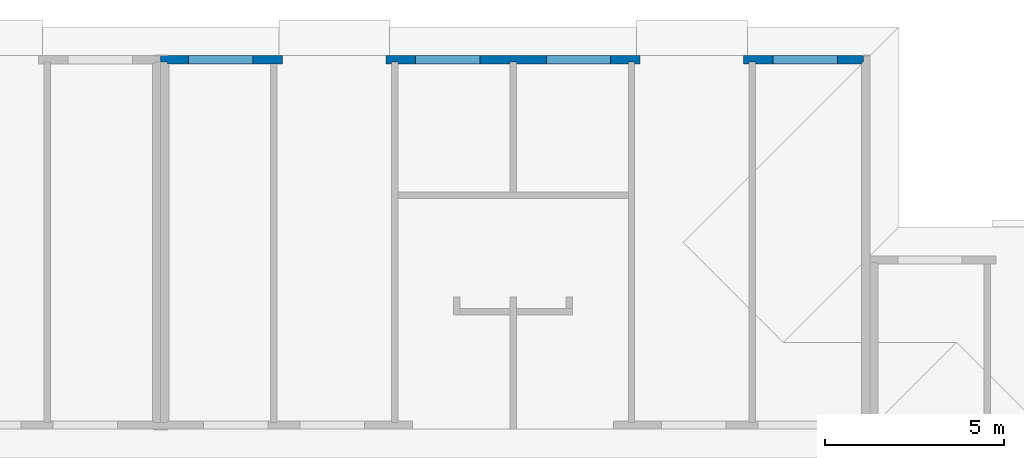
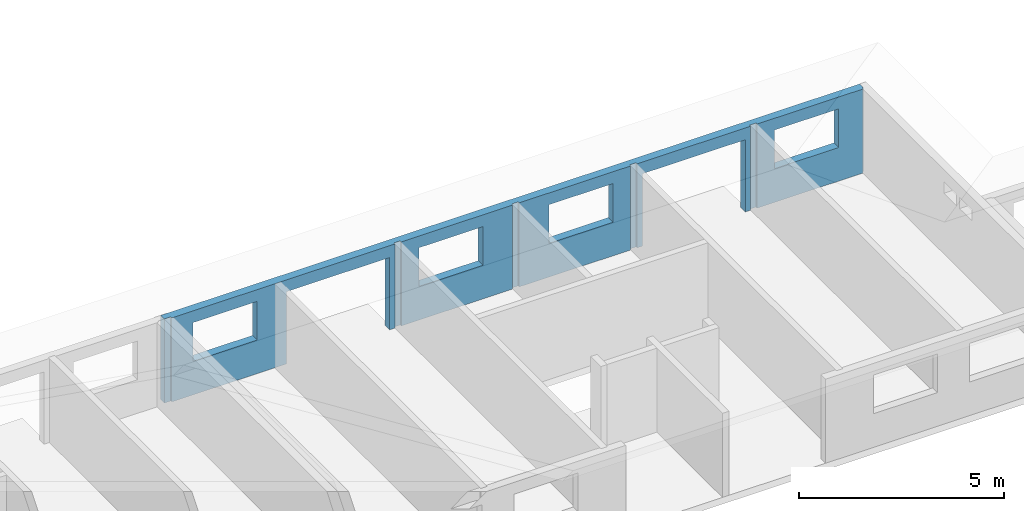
# One storey, part 5 of 9: 1 wall, 6 openings.
"""IFC2X3 building model written with IfcOpenShell, lengths in millimetres."""

import ifcopenshell
import ifcopenshell.guid

model = None  # the IFC model being written
_history = None  # IfcOwnerHistory: only IFC2X3 demands one
_inside = {}  # id of a spatial element -> (the spatial element, [elements in it])
_under = {}  # id of a project, library or spatial element -> (it, [spatial elements below it])
_declared = {}  # id of a project -> (the project, [libraries it declares])
_typed = {}  # id of a type object -> (the type object, [elements of that type])
_made_of = {}  # id of a material, layer set ... -> (it, [elements and type objects made of it])


def new_model(schema):
    """Start an empty IFC model of exactly this schema.

    Asked for "IFC4X3", IfcOpenShell would pick the latest addendum, in which some entities
    have other attributes; the version numbers below select the first issue.
    IFC2X3 requires an IfcOwnerHistory on every rooted entity: one is made here for all.
    """
    global model, _history
    if schema == "IFC4X3":
        model = ifcopenshell.file(schema_version=(4, 3, 0, 0))
    else:
        model = ifcopenshell.file(schema=schema)
    _inside.clear()
    _under.clear()
    _declared.clear()
    _typed.clear()
    _made_of.clear()
    _history = None
    if model.schema == "IFC2X3":
        org = make("IfcOrganization", Name="unknown")
        user = make(
            "IfcPersonAndOrganization",
            ThePerson=make("IfcPerson", FamilyName="unknown"),
            TheOrganization=org,
        )
        app = make(
            "IfcApplication",
            ApplicationDeveloper=org,
            Version="unknown",
            ApplicationFullName="unknown",
            ApplicationIdentifier="unknown",
        )
        _history = make(
            "IfcOwnerHistory",
            OwningUser=user,
            OwningApplication=app,
            ChangeAction="ADDED",
            CreationDate=0,
        )
    return model


def make(cls, **values):
    """One entity of the class cls with the attributes given. An attribute that is None is left unset."""
    return model.create_entity(
        cls, **{name: value for name, value in values.items() if value is not None}
    )


def entity(cls, *values):
    """Any entity or typed value of the class cls, its attributes in the order of the schema. None: left unset."""
    e = model.create_entity(cls)
    for i, value in enumerate(values):
        if value is not None:
            e[i] = value
    return e


def rooted(cls, **values):
    """An entity with a GlobalId (a new one), such as an element, a storey or a relation."""
    return make(cls, GlobalId=ifcopenshell.guid.new(), OwnerHistory=_history, **values)


def si_unit(unit_type, name, prefix=None):
    """IfcSIUnit, for example si_unit("LENGTHUNIT", "METRE", prefix="MILLI")."""
    return make("IfcSIUnit", UnitType=unit_type, Prefix=prefix, Name=name)


def converted_unit(unit_type, name, factor, base, dimensions=None, offset=None):
    """IfcConversionBasedUnit, such as the inch: factor (a typed value) times the base unit."""
    return make(
        "IfcConversionBasedUnit"
        if offset is None
        else "IfcConversionBasedUnitWithOffset",
        ConversionOffset=offset,
        Dimensions=None
        if dimensions is None
        else entity("IfcDimensionalExponents", *dimensions),
        UnitType=unit_type,
        Name=name,
        ConversionFactor=make(
            "IfcMeasureWithUnit", ValueComponent=factor, UnitComponent=base
        ),
    )


def assignment(units):
    """IfcUnitAssignment: the units of a project."""
    return None if units is None else make("IfcUnitAssignment", Units=units)


def point(xyz):
    """IfcCartesianPoint."""
    return None if xyz is None else make("IfcCartesianPoint", Coordinates=xyz)


def direction(xyz):
    """IfcDirection."""
    return None if xyz is None else make("IfcDirection", DirectionRatios=xyz)


def frame(location, z_axis=None, x_axis=None):
    """IfcAxis2Placement3D, a coordinate frame: its origin and axes. An axis left out is left unset."""
    return make(
        "IfcAxis2Placement3D",
        Location=point(location),
        Axis=direction(z_axis),
        RefDirection=direction(x_axis),
    )


def frame_2d(location, x_axis=None):
    """IfcAxis2Placement2D, a coordinate frame in the plane: its origin and x axis."""
    return make(
        "IfcAxis2Placement2D", Location=point(location), RefDirection=direction(x_axis)
    )


def origin():
    """The frame at (0, 0, 0) with its axes left unset."""
    return frame((0.0, 0.0, 0.0))


def origin_with_axes():
    """The frame at (0, 0, 0) with the z axis (0, 0, 1) and the x axis (1, 0, 0) written out."""
    return frame((0.0, 0.0, 0.0), z_axis=(0.0, 0.0, 1.0), x_axis=(1.0, 0.0, 0.0))


def place(relative_to, where):
    """IfcLocalPlacement: puts the frame where relative to a parent placement (None: the world)."""
    return make(
        "IfcLocalPlacement", PlacementRelTo=relative_to, RelativePlacement=where
    )


def context(
    kind, dimensions, precision=None, world=None, true_north=None, identifier=None
):
    """IfcGeometricRepresentationContext, for example the 3D "Model" context."""
    return make(
        "IfcGeometricRepresentationContext",
        ContextIdentifier=identifier,
        ContextType=kind,
        CoordinateSpaceDimension=dimensions,
        Precision=precision,
        WorldCoordinateSystem=world,
        TrueNorth=true_north,
    )


def subcontext(parent, identifier, kind, view, scale=None):
    """IfcGeometricRepresentationSubContext, for example "Body" below "Model"."""
    return make(
        "IfcGeometricRepresentationSubContext",
        ContextIdentifier=identifier,
        ContextType=kind,
        ParentContext=parent,
        TargetScale=scale,
        TargetView=view,
    )


def project(units=None, contexts=None):
    """IfcProject with its units and contexts."""
    return rooted(
        "IfcProject",
        Name="project",
        RepresentationContexts=contexts,
        UnitsInContext=assignment(units),
    )


def spatial(cls, under=None, at=None, **own):
    """A site, building, storey or space (cls), placed at a placement, below another one or the project."""
    s = rooted(cls, ObjectPlacement=at, **own)
    if under is not None:
        _under.setdefault(under.id(), (under, []))[1].append(s)
    return s


def polyline(points):
    """IfcPolyline through the points."""
    return make("IfcPolyline", Points=[point(p) for p in points])


def profile(cls, at=None, kind="AREA", **sizes):
    """A parametric profile (cls). Its sizes go by their IFC names, for example OverallWidth=200.0."""
    return make(cls, ProfileType=kind, Position=at, **sizes)


def rectangle(**sizes):
    """IfcRectangleProfileDef."""
    return profile("IfcRectangleProfileDef", **sizes)


def outline(outer, holes=None, kind="AREA"):
    """IfcArbitraryClosedProfileDef: a profile drawn as a closed curve; with holes, ...WithVoids."""
    if holes is None:
        return make("IfcArbitraryClosedProfileDef", ProfileType=kind, OuterCurve=outer)
    return make(
        "IfcArbitraryProfileDefWithVoids",
        ProfileType=kind,
        OuterCurve=outer,
        InnerCurves=holes,
    )


def extrude(swept, where, along, depth):
    """IfcExtrudedAreaSolid: the profile swept, set in the frame where, extruded along a direction by depth."""
    return make(
        "IfcExtrudedAreaSolid",
        SweptArea=swept,
        Position=where,
        ExtrudedDirection=direction(along),
        Depth=depth,
    )


def shape(context_of_items, identifier, shape_type, items):
    """IfcShapeRepresentation: the items that make up one representation, for example the "Body"."""
    return make(
        "IfcShapeRepresentation",
        ContextOfItems=context_of_items,
        RepresentationIdentifier=identifier,
        RepresentationType=shape_type,
        Items=items,
    )


def material(Name=None, Category=None):
    """IfcMaterial."""
    return make("IfcMaterial", Name=Name, Category=Category)


def layer(
    of_material, thickness, ventilated=None, Name=None, Category=None, Priority=None
):
    """IfcMaterialLayer: one layer of a wall or slab, of a material (None: an air gap)."""
    return make(
        "IfcMaterialLayer",
        Material=of_material,
        LayerThickness=thickness,
        IsVentilated=ventilated,
        Name=Name,
        Category=Category,
        Priority=Priority,
    )


def layer_set(layers, Name=None):
    """IfcMaterialLayerSet."""
    return make("IfcMaterialLayerSet", MaterialLayers=layers, LayerSetName=Name)


def layer_usage(for_layer_set, set_direction, sense, offset, extent=None):
    """IfcMaterialLayerSetUsage: how a layer set lies in its element."""
    return make(
        "IfcMaterialLayerSetUsage",
        ForLayerSet=for_layer_set,
        LayerSetDirection=set_direction,
        DirectionSense=sense,
        OffsetFromReferenceLine=offset,
        ReferenceExtent=extent,
    )


def made_of(thing, what):
    """Note that an element or type object is made of a material, layer set ...; save() writes the relation."""
    if what is not None:
        _made_of.setdefault(what.id(), (what, []))[1].append(thing)
    return thing


def element(
    cls,
    number,
    at=None,
    inside=None,
    cuts=None,
    type_object=None,
    material=None,
    context=None,
    identifier="Body",
    shape_type=None,
    held_by="IfcProductDefinitionShape",
    body=None,
    shapes=None,
    **own,
):
    """One element of the class cls, such as IfcWall. Its Tag is "e" and its number.

    at: its placement. inside: the storey or other place that contains it. cuts: it is an
    opening in that element (IfcRelVoidsElement). A single representation is given by context,
    identifier, shape_type and body (its items); several are given by shapes. held_by: the class
    of the entity that holds the representations. save() writes the other relations.
    """
    e = rooted(cls, Tag="e%d" % number, ObjectPlacement=at, **own)
    if body is not None:
        shapes = [shape(context, identifier, shape_type, body)]
    if shapes is not None:
        e.Representation = make(held_by, Representations=shapes)
    if inside is not None:
        _inside.setdefault(inside.id(), (inside, []))[1].append(e)
    if cuts is not None:
        rooted(
            "IfcRelVoidsElement", RelatingBuildingElement=cuts, RelatedOpeningElement=e
        )
    if type_object is not None:
        _typed.setdefault(type_object.id(), (type_object, []))[1].append(e)
    return made_of(e, material)


def aggregate(whole, parts):
    """IfcRelAggregates: a whole, such as a stair, and the parts it consists of."""
    return rooted("IfcRelAggregates", RelatingObject=whole, RelatedObjects=parts)


def save(model, path):
    """Write the relations noted so far, then the file.

    IfcRelAggregates (storeys below a building ...), IfcRelContainedInSpatialStructure (elements
    in a storey), IfcRelDefinesByType, IfcRelAssociatesMaterial and IfcRelDeclares: one each for
    every whole, place, type object, material and project.
    """
    for whole, parts in _under.values():
        aggregate(whole, parts)
    for where, things in _inside.values():
        rooted(
            "IfcRelContainedInSpatialStructure",
            RelatedElements=things,
            RelatingStructure=where,
        )
    for kind, things in _typed.values():
        rooted("IfcRelDefinesByType", RelatedObjects=things, RelatingType=kind)
    for what, things in _made_of.values():
        rooted("IfcRelAssociatesMaterial", RelatedObjects=things, RelatingMaterial=what)
    for by, libraries in _declared.values():
        rooted("IfcRelDeclares", RelatingContext=by, RelatedDefinitions=libraries)
    model.write(path)


model = new_model("IFC2X3")

# Units and contexts
model_context = context("Model", 3, precision=1e-05, world=origin())
plan_context = context("Plan", 3, precision=1e-05, world=origin())
body_context = subcontext(model_context, "Body", "Model", "MODEL_VIEW")
ifc_project = project(units=[si_unit("LENGTHUNIT", "METRE", prefix="MILLI"), converted_unit("PLANEANGLEUNIT", "DEGREE", entity("IfcPlaneAngleMeasure", 0.0174532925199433), si_unit("PLANEANGLEUNIT", "RADIAN"), dimensions=[0, 0, 0, 0, 0, 0, 0]), si_unit("AREAUNIT", "SQUARE_METRE"), si_unit("VOLUMEUNIT", "CUBIC_METRE")], contexts=[model_context, plan_context])

# Building, storey
building_placement = place(None, origin())
building = spatial("IfcBuilding", under=ifc_project, at=building_placement, Name="Bâtiment", CompositionType="ELEMENT")
storey_placement = place(building_placement, frame((0.0, 0.0, 8100.0), z_axis=(0.0, 0.0, 1.0), x_axis=(1.0, 0.0, 0.0)))
storey = spatial("IfcBuildingStorey", under=building, at=storey_placement, Name="r+3", CompositionType="ELEMENT", Elevation=8100.0)

# Wall, openings
ifc_material_1 = material(Name="moellons")
ifc_layer_1 = layer(ifc_material_1, 180.0000000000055)
ifc_material_2 = material(Name="briquettes")
ifc_layer_2 = layer(ifc_material_2, 40.0)
ifc_material_3 = material(Name="enduit platre")
ifc_layer_3 = layer(ifc_material_3, 10.0)
ifc_layer_set = layer_set([ifc_layer_1, ifc_layer_2, ifc_layer_3])
ifc_layer_usage = layer_usage(ifc_layer_set, "AXIS2", "POSITIVE", 0.0)
wall_placement = place(storey_placement, frame((39519.99999999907, 10470.07776548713, 0.0), z_axis=(0.0, 0.0, 1.0), x_axis=(-1.0, 9.247531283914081e-17, 0.0)))
wall = element("IfcWallStandardCase", 1, at=wall_placement, inside=storey, material=ifc_layer_usage, context=body_context, shape_type="SweptSolid", body=[
    extrude(outline(polyline([(49.99999999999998, 230.0), (49.99999999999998, 220.0), (39.99999999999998, 220.0), (39.99999999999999, 180.0), (-1.664555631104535e-14, 180.0), (0.0, 0.0), (19669.99999999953, 0.0), (19669.99999999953, 180.0), (19489.99999999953, 180.0), (19489.99999999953, 220.0), (19449.99999999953, 220.0), (19449.99999999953, 230.0), (13209.99993823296, 230.0000000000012), (13209.99993823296, 179.9999999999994), (13029.99993823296, 180.0000000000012), (13029.99993823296, 230.0000000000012), (9894.999999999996, 230.0000000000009), (9894.999999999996, 180.0000000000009), (9714.999999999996, 180.0000000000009), (9714.999999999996, 230.0000000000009), (6580.0, 230.0000000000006), (6580.0, 180.0000000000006), (6400.0, 180.0000000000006), (6400.0, 230.0000000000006), (3199.999999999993, 230.0000000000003), (3199.999999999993, 180.0000000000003), (3019.999999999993, 180.0000000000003), (3019.999999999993, 230.0000000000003), (49.99999999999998, 230.0)])), origin_with_axes(), (0.0, 0.0, 1.0), 2500.0),
])
opening_1_placement = place(wall_placement, frame((3350.370189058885, 0.0, 0.0), z_axis=(0.0, 1.0, 0.0), x_axis=(0.0, 0.0, 1.0)))
element("IfcOpeningElement", 2, at=opening_1_placement, cuts=wall, Name="Baie de porte", ObjectType="Opening", context=body_context, shape_type="SweptSolid", body=[
    extrude(rectangle(XDim=2150.0, YDim=2900.0, at=frame_2d((1075.0, 1450.0), x_axis=(1.0, 0.0))), origin_with_axes(), (0.0, 0.0, 1.0), 230.0),
])
opening_2_placement = place(wall_placement, frame((13359.96872355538, -1.818989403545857e-12, 0.0), z_axis=(0.0, 1.0, 0.0), x_axis=(0.0, 0.0, 1.0)))
element("IfcOpeningElement", 3, at=opening_2_placement, cuts=wall, Name="Baie de porte", ObjectType="Opening", context=body_context, shape_type="SweptSolid", body=[
    extrude(rectangle(XDim=2150.0, YDim=2900.0, at=frame_2d((1075.0, 1450.0), x_axis=(1.0, 0.0))), origin_with_axes(), (0.0, 0.0, 1.0), 230.0),
])
opening_3_placement = place(wall_placement, frame((725.0000000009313, 0.0, 1000.0), z_axis=(0.0, 1.0, 0.0), x_axis=(0.0, 0.0, 1.0)))
element("IfcOpeningElement", 4, at=opening_3_placement, cuts=wall, Name="Baie de fenêtre", ObjectType="Opening", context=body_context, shape_type="SweptSolid", body=[
    extrude(rectangle(XDim=1150.0, YDim=1800.0, at=frame_2d((575.0, 900.0), x_axis=(1.0, 0.0))), origin_with_axes(), (0.0, 0.0, 1.0), 230.0),
])
opening_4_placement = place(wall_placement, frame((7074.999999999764, 0.0, 1000.0), z_axis=(0.0, 1.0, 0.0), x_axis=(0.0, 0.0, 1.0)))
element("IfcOpeningElement", 5, at=opening_4_placement, cuts=wall, Name="Baie de fenêtre", ObjectType="Opening", context=body_context, shape_type="SweptSolid", body=[
    extrude(rectangle(XDim=1150.0, YDim=1800.0, at=frame_2d((575.0, 900.0), x_axis=(1.0, 0.0))), origin_with_axes(), (0.0, 0.0, 1.0), 230.0),
])
opening_5_placement = place(wall_placement, frame((10735.00000000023, -1.818989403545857e-12, 1000.0), z_axis=(0.0, 1.0, 0.0), x_axis=(0.0, 0.0, 1.0)))
element("IfcOpeningElement", 6, at=opening_5_placement, cuts=wall, Name="Baie de fenêtre", ObjectType="Opening", context=body_context, shape_type="SweptSolid", body=[
    extrude(rectangle(XDim=1150.0, YDim=1800.0, at=frame_2d((575.0, 900.0), x_axis=(1.0, 0.0))), origin_with_axes(), (0.0, 0.0, 1.0), 230.0),
])
opening_6_placement = place(wall_placement, frame((17084.99999999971, -1.818989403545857e-12, 1000.0), z_axis=(0.0, 1.0, 0.0), x_axis=(0.0, 0.0, 1.0)))
element("IfcOpeningElement", 7, at=opening_6_placement, cuts=wall, Name="Baie de fenêtre", ObjectType="Opening", context=body_context, shape_type="SweptSolid", body=[
    extrude(rectangle(XDim=1150.0, YDim=1800.0, at=frame_2d((575.0, 900.0), x_axis=(1.0, 0.0))), origin_with_axes(), (0.0, 0.0, 1.0), 230.0),
])

save(model, "model.ifc")
